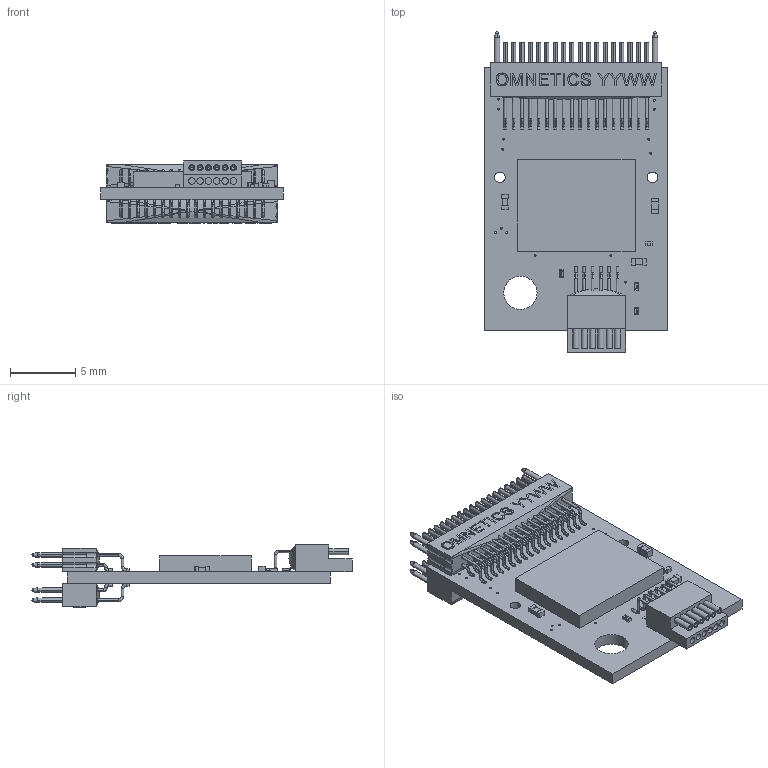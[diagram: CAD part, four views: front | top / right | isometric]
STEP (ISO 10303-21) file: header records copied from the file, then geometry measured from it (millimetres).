
FILE_DESCRIPTION (( 'STEP AP214' ), '1' );
FILE_NAME ('RHD2164_headstage_bga.STEP', '2022-03-21T18:35:29', ( '' ), ( '' ), 'SwSTEP 2.0', 'SolidWorks 2022', '' );
FILE_SCHEMA (( 'AUTOMOTIVE_DESIGN' ));
Length unit declared in the file: inch
Products named in the file (9): RHD2164_bga; A79623-001; 0402r_1430758; 0201r_0201; 0201c_0201; RHD2164_headstage_bga_PCB; RHD2164_headstage_bga; A79025-001; 0402c_2320560
Assembly tree (12 placements, depth 2):
  RHD2164_headstage_bga
    RHD2164_headstage_bga_PCB
    0402c_2320560
    0201c_0201
    0402r_1430758  x2
    0201r_0201  x3
    A79025-001  x2
    A79623-001
    RHD2164_bga
Bounding box: 13.97 x 24.45 x 4.74 mm (x, y, z)
Volume: 355.3 mm3; surface area: 1749.7 mm2
Topology: 19 solids, 35 shells, 2388 faces, 5992 edges, 3731 vertices
Faces by surface type: cylinder 758, plane 725, bspline 725, cone 172, sphere 8
Entity records: 57546 total; most frequent: CARTESIAN_POINT 19534, ORIENTED_EDGE 6554, DIRECTION 5779, EDGE_CURVE 3281, AXIS2_PLACEMENT_3D 2273, VERTEX_POINT 2115, EDGE_LOOP 1610, ADVANCED_FACE 1356
